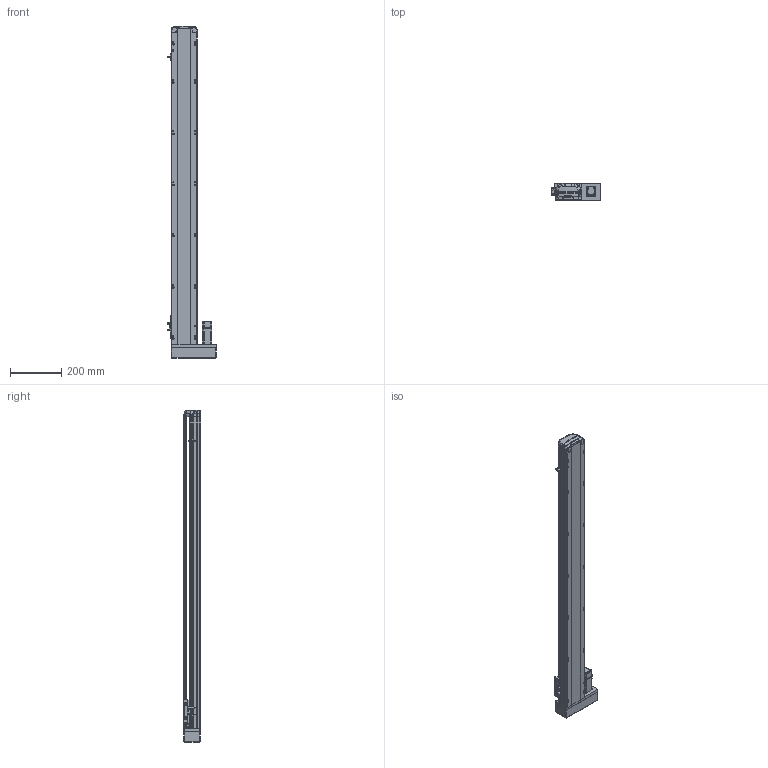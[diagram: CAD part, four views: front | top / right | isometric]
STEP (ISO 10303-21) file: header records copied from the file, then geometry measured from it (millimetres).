
FILE_DESCRIPTION (( 'STEP AP214' ), '1' );
FILE_NAME ('RTH10-XX-1050-R-M10-C4.STEP', '2025-10-25T05:57:50', ( 'Microsoft' ), ( 'Microsoft' ), 'SwSTEP 2.0', 'SolidWorks 2018', '' );
FILE_SCHEMA (( 'AUTOMOTIVE_DESIGN' ));
Length unit declared in the file: millimetre
Products named in the file (10): N_RTH12-M-007P-奻裔^RTH10-XX-100-R-M10-C4; RTH10-XX-1050-R-M10-C4; N_RTH12-GY-001P^RTH10-XX-100-R-M10-C4; N_RTH12-L-018-裔赽^RTH10-XX-100-R-M10-C4; N_P10^RTH10-XX-100-R-M10-C4; N_RTH12-GY-004-賑釱^RTH10-XX-100-R-M10-C4; N_RTH13-L-012覜茼え俋离^RTH10-XX-100-R-M10-C4; N_RTH12-M-011P-臏倰第菁釱^RTH10-XX-100-R-M10-C4; N_RTH12-L-008萇儂啣^RTH10-XX-100-R-M10-C4; N_OMRON EE-SX672 传感器^RTH10-XX-100-R-M10-C4
Assembly tree (11 placements, depth 2):
  RTH10-XX-1050-R-M10-C4
    N_RTH12-M-011P-臏倰第菁釱^RTH10-XX-100-R-M10-C4
    N_RTH13-L-012覜茼え俋离^RTH10-XX-100-R-M10-C4
    N_OMRON EE-SX672 传感器^RTH10-XX-100-R-M10-C4  x3
    N_P10^RTH10-XX-100-R-M10-C4
    N_RTH12-M-007P-奻裔^RTH10-XX-100-R-M10-C4
    N_RTH12-L-008萇儂啣^RTH10-XX-100-R-M10-C4
    N_RTH12-L-018-裔赽^RTH10-XX-100-R-M10-C4
    N_RTH12-GY-004-賑釱^RTH10-XX-100-R-M10-C4
    N_RTH12-GY-001P^RTH10-XX-100-R-M10-C4
Bounding box: 190 x 70 x 1297.31 mm (x, y, z)
Volume: 5397077.5 mm3; surface area: 817672.5 mm2
Topology: 10 solids, 12 shells, 1960 faces, 5488 edges, 3601 vertices
Faces by surface type: plane 955, cylinder 498, bspline 472, cone 29, sphere 4, torus 2
Entity records: 59392 total; most frequent: CARTESIAN_POINT 23529, ORIENTED_EDGE 8048, DIRECTION 6210, EDGE_CURVE 4030, VERTEX_POINT 2645, VECTOR 2094, LINE 2094, AXIS2_PLACEMENT_3D 2058
